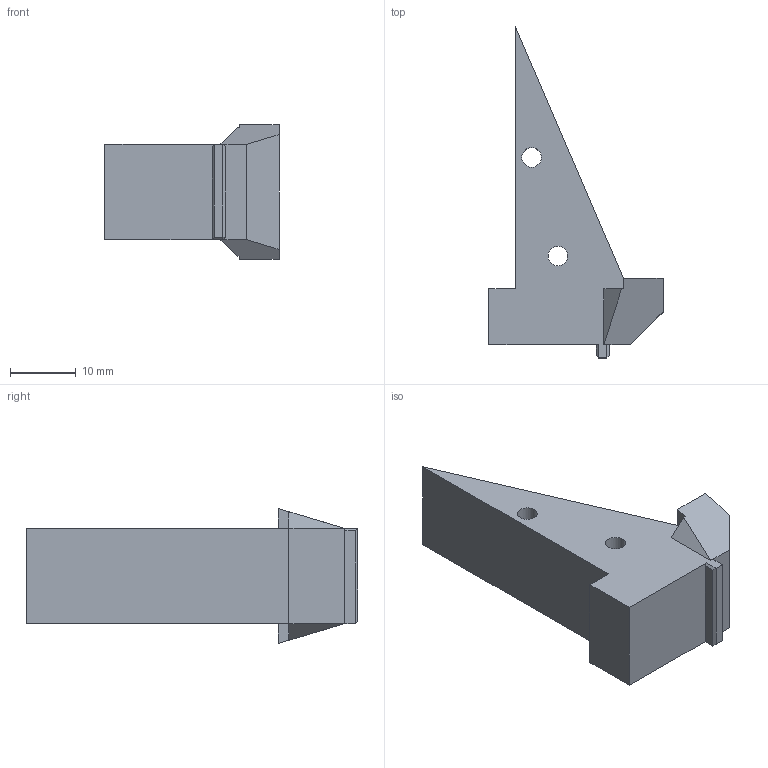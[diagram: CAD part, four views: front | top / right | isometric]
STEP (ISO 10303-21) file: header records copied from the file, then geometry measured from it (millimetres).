
FILE_DESCRIPTION (( 'STEP AP214' ), '1' );
FILE_NAME ('fingertip-linkage.step', '2026-11-14T03:54:15', ( '' ), ( '' ), 'SwSTEP 2.0', 'SolidWorks 2024', '' );
FILE_SCHEMA (( 'AUTOMOTIVE_DESIGN' ));
Length unit declared in the file: millimetre
Products named in the file (1): fingertip-linkage
Bounding box: 26.5 x 50.5 x 20.5 mm (x, y, z)
Volume: 8266.1 mm3; surface area: 3477.5 mm2
Topology: 1 solids, 1 shells, 31 faces, 77 edges, 48 vertices
Faces by surface type: plane 29, cylinder 2
Full cylindrical faces by diameter (mm): 3 x2
Entity records: 916 total; most frequent: CARTESIAN_POINT 155, ORIENTED_EDGE 150, DIRECTION 143, EDGE_CURVE 75, VECTOR 71, LINE 71, VERTEX_POINT 48, EDGE_LOOP 37
